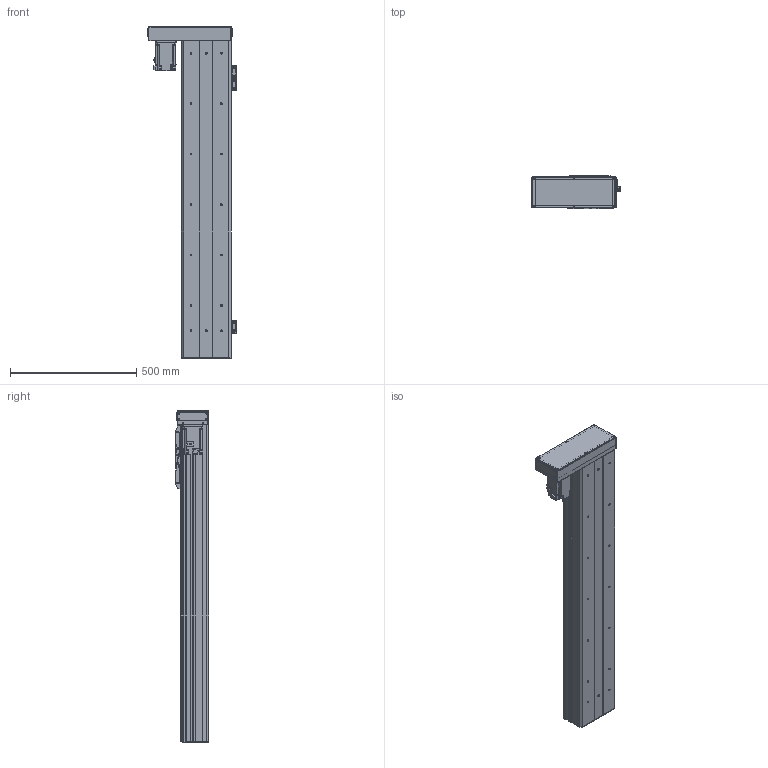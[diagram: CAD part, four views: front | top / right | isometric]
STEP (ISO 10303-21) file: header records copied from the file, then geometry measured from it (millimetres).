
FILE_DESCRIPTION(/* description */ ('MANUFACTURE'),/* implementation_level */ '2;1');
FILE_NAME(/* name */ '\\192.168.0.160\disk1\HAN SHIN Master\B-설계부문\C-표준\B-2024년\BC02-표준도면\+로봇 개선표준도면\표준 승인도 폴더 - 재작업\3D\HC Type\HC200\좌병렬\HC200-L70-N-1000-R10.stp',/* time_stamp */ '2024-03-25T09:24:52+09:00',/* author */ ('User'),/* organization */ (''),/* preprocessor_version */ 'ST-DEVELOPER v18.1',/* originating_system */ 'Autodesk Inventor 2022',/* authorisation */ 'LIP');
FILE_SCHEMA (('AUTOMOTIVE_DESIGN { 1 0 10303 214 3 1 1 }'));
Products named in the file (28): HC200-L70-N-0500-R10 - 간소화; HC200 S BASE F - 1100ST; HC90 REAR COVER; HC200 TABLE COVER - 개주; HC75 SENSOR DOG; HC200-STEEL SHEET F - 1100ST; LMKE2020 NUT; HR180 FRONT BLOCK; HR120 STOPPER; HC200 TABLE; HR180 FRONT BLOCK_1; HC200 SIDE COVER F - 1100ST; HC140 SHEET PLATE; HC65 TABLE SIDE COVER; M-5UT; M-5H-4; hg-kr73_; 750W MOTOR PLATE; HR200 ACRYL COVER -1; HR200 ACRYL COVER -1_1; HG200 750W LR MOTOR PLATE-사출; HR160 400W LR BELT COVER; HR200 ACRYL COVER -1_2; 화살표; SENSOR BRK(EE-SX674A); EE_SX674A; hsr_ftht_A-M6F_grease_nipple_joint; NIPPLE CAP(신규)
Assembly tree (49 placements, depth 2):
  HC200-L70-N-0500-R10 - 간소화
    HC200 S BASE F - 1100ST
    HC90 REAR COVER
    HC200 TABLE COVER - 개주
    HC65 TABLE SIDE COVER  x2
    HC75 SENSOR DOG
    HC200-STEEL SHEET F - 1100ST
    LMKE2020 NUT
    HR120 STOPPER  x2
    HR180 FRONT BLOCK
    HC200 SIDE COVER F - 1100ST  x2
    HC200 TABLE
    HR180 FRONT BLOCK_1
    HC140 SHEET PLATE  x2
    hsr_ftht_A-M6F_grease_nipple_joint  x5
    NIPPLE CAP(신규)  x5
    M-5UT  x2
    M-5H-4  x4
    hg-kr73_
    750W MOTOR PLATE
    HR200 ACRYL COVER -1
    HR200 ACRYL COVER -1_1
    HR200 ACRYL COVER -1_2  x2
    HG200 750W LR MOTOR PLATE-사출
    HR160 400W LR BELT COVER
    화살표  x2
    SENSOR BRK(EE-SX674A)  x3
    EE_SX674A  x3
Bounding box: 351 x 132 x 1316 mm (x, y, z)
Volume: 9914490.6 mm3; surface area: 2947256.2 mm2
Topology: 51 solids, 51 shells, 4363 faces, 11878 edges, 7803 vertices
Faces by surface type: plane 3038, cylinder 883, cone 348, sphere 44, torus 30, bspline 20
Full cylindrical faces by diameter (mm): 1.8 x4, 2 x6, 2.459 x58, 2.5 x6, 3 x16, 3.242 x23, 3.4 x24, 3.5 x12, 4 x6, 4.134 x12, 4.5 x26, 4.917 x29, 5 x26, 5.5 x5, 5.6 x5, 5.9 x4, 6 x11, 6.5 x14, 6.6 x32, 6.647 x24, 6.8 x2, 7 x10, 7.6 x4, 8 x6, 9 x10, 9.5 x1, 10.5 x8, 11 x36, 19 x1, 20 x1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
Entity records: 112349 total; most frequent: CARTESIAN_POINT 20475, ORIENTED_EDGE 19020, DIRECTION 18006, EDGE_CURVE 9510, LINE 7836, VECTOR 7836, VERTEX_POINT 6329, AXIS2_PLACEMENT_3D 5085
